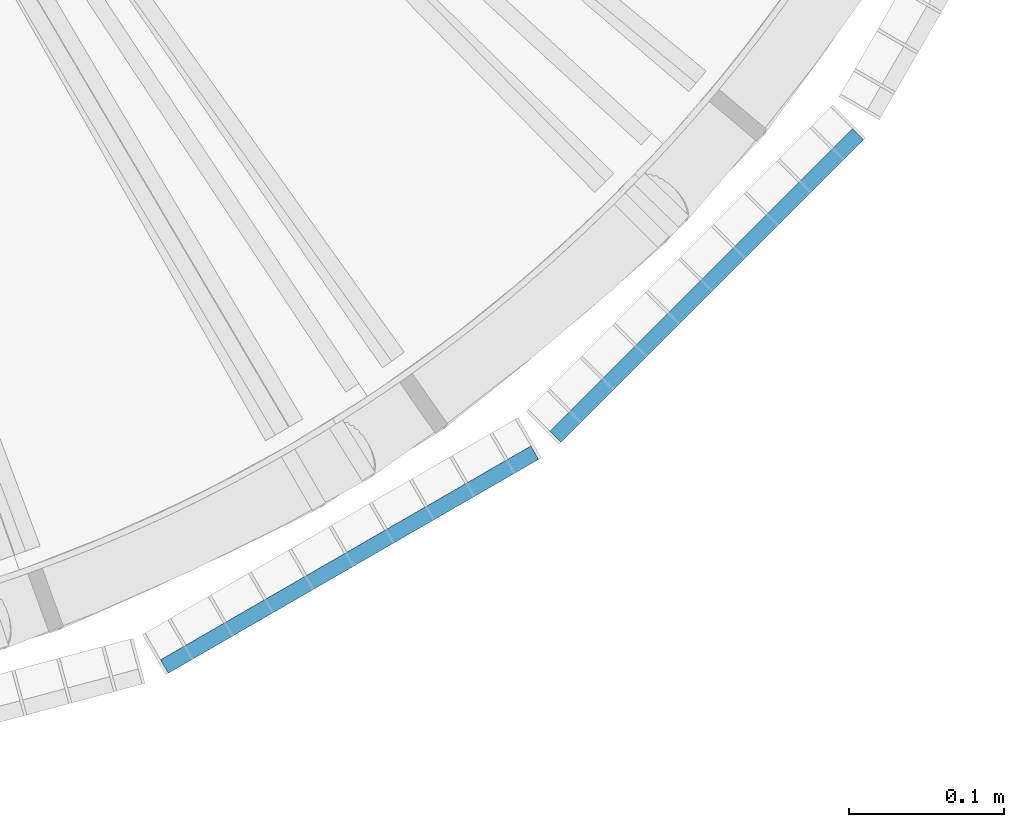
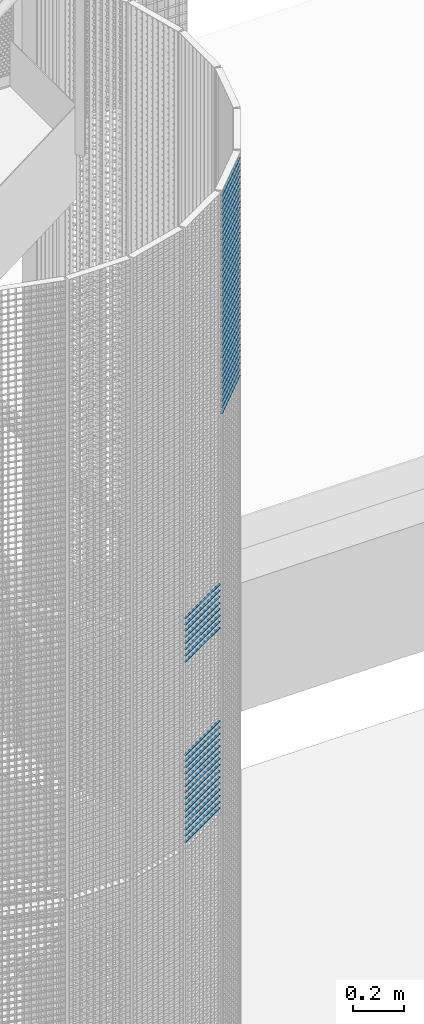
# One storey, part 395 of 1183: 59 beams, 2 elements without a shape of their own.
"""IFC2X3 building model written with IfcOpenShell, lengths in millimetres."""

from ifc_helpers import new_model, si_unit, frame, origin_with_axes, origin_2d_with_axis, place, context, subcontext, project, spatial, rectangle, extrude, material, type_object, element, aggregate, save


model = new_model("IFC2X3")

# Units and contexts
model_context = context("Model", 3, precision=1e-05, world=origin_with_axes())
body_context = subcontext(model_context, "Body", "Model", "MODEL_VIEW")
ifc_project = project(units=[si_unit("LENGTHUNIT", "METRE", prefix="MILLI"), si_unit("AREAUNIT", "SQUARE_METRE"), si_unit("VOLUMEUNIT", "CUBIC_METRE"), si_unit("MASSUNIT", "GRAM", prefix="KILO"), si_unit("TIMEUNIT", "SECOND"), si_unit("PLANEANGLEUNIT", "RADIAN"), si_unit("SOLIDANGLEUNIT", "STERADIAN"), si_unit("THERMODYNAMICTEMPERATUREUNIT", "DEGREE_CELSIUS"), si_unit("LUMINOUSINTENSITYUNIT", "LUMEN")], contexts=[model_context])

# Site, building, storey
site_placement = place(None, origin_with_axes())
site = spatial("IfcSite", under=ifc_project, at=site_placement, Name="Undefined", CompositionType="ELEMENT")
building_placement = place(site_placement, origin_with_axes())
building = spatial("IfcBuilding", under=site, at=building_placement, Name="Undefined", CompositionType="ELEMENT")
storey_placement = place(building_placement, origin_with_axes())
storey = spatial("IfcBuildingStorey", under=building, at=storey_placement, Name="Undefined", CompositionType="ELEMENT", Elevation=0.0)

# Assembly, beams
assembly_1_placement = place(storey_placement, origin_with_axes())
assembly_1 = element("IfcElementAssembly", 1, at=assembly_1_placement, inside=storey, Name="BORDURE", AssemblyPlace="NOTDEFINED", PredefinedType="NOTDEFINED")
ifc_material = material(Name="STEEL/S235JR")
beam_type = type_object("IfcBeamType", Name="PL2*10", PredefinedType="NOTDEFINED")
beam_1_placement = place(assembly_1_placement, frame((22276.2480445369, -895.30396491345, 15450.0), z_axis=(0.499999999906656, -0.866025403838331, 0.0), x_axis=(-0.866025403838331, -0.499999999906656, 0.0)))
beam_1 = element("IfcBeam", 2, at=beam_1_placement, type_object=beam_type, material=ifc_material, Name="ENTRETOISE", context=body_context, shape_type="SweptSolid", body=[
    extrude(rectangle(XDim=2.0, YDim=10.0, at=origin_2d_with_axis()), frame((275.999999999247, 9.09494701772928e-13, 1.53210777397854e-14), z_axis=(-1.0, 0.0, 0.0), x_axis=(0.0, -1.0, 0.0)), (0.0, 0.0, 1.0), 276.0),
])
beam_2_placement = place(assembly_1_placement, frame((22276.2480445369, -895.30396491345, 15420.0), z_axis=(0.499999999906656, -0.866025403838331, 0.0), x_axis=(-0.866025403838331, -0.499999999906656, 0.0)))
beam_2 = element("IfcBeam", 3, at=beam_2_placement, type_object=beam_type, material=ifc_material, Name="ENTRETOISE", context=body_context, shape_type="SweptSolid", body=[
    extrude(rectangle(XDim=2.0, YDim=10.0, at=origin_2d_with_axis()), frame((275.999999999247, 9.09494701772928e-13, 1.53210777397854e-14), z_axis=(-1.0, 0.0, 0.0), x_axis=(0.0, -1.0, 0.0)), (0.0, 0.0, 1.0), 276.0),
])
beam_3_placement = place(assembly_1_placement, frame((22276.2480445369, -895.303964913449, 15900.0), z_axis=(0.499999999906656, -0.866025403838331, 0.0), x_axis=(-0.866025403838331, -0.499999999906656, 0.0)))
beam_3 = element("IfcBeam", 4, at=beam_3_placement, type_object=beam_type, material=ifc_material, Name="ENTRETOISE", context=body_context, shape_type="SweptSolid", body=[
    extrude(rectangle(XDim=2.0, YDim=10.0, at=origin_2d_with_axis()), frame((275.999999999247, 9.09494701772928e-13, 1.53210777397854e-14), z_axis=(-1.0, 0.0, 0.0), x_axis=(0.0, -1.0, 0.0)), (0.0, 0.0, 1.0), 276.0),
])
beam_4_placement = place(assembly_1_placement, frame((22276.2480445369, -895.30396491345, 15390.0), z_axis=(0.499999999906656, -0.866025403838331, 0.0), x_axis=(-0.866025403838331, -0.499999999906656, 0.0)))
beam_4 = element("IfcBeam", 5, at=beam_4_placement, type_object=beam_type, material=ifc_material, Name="ENTRETOISE", context=body_context, shape_type="SweptSolid", body=[
    extrude(rectangle(XDim=2.0, YDim=10.0, at=origin_2d_with_axis()), frame((275.999999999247, 9.09494701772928e-13, 1.53210777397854e-14), z_axis=(-1.0, 0.0, 0.0), x_axis=(0.0, -1.0, 0.0)), (0.0, 0.0, 1.0), 276.0),
])
beam_5_placement = place(assembly_1_placement, frame((22276.2480445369, -895.303964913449, 15930.0), z_axis=(0.499999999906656, -0.866025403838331, 0.0), x_axis=(-0.866025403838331, -0.499999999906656, 0.0)))
beam_5 = element("IfcBeam", 6, at=beam_5_placement, type_object=beam_type, material=ifc_material, Name="ENTRETOISE", context=body_context, shape_type="SweptSolid", body=[
    extrude(rectangle(XDim=2.0, YDim=10.0, at=origin_2d_with_axis()), frame((275.999999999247, 9.09494701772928e-13, 1.53210777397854e-14), z_axis=(-1.0, 0.0, 0.0), x_axis=(0.0, -1.0, 0.0)), (0.0, 0.0, 1.0), 276.0),
])
beam_6_placement = place(assembly_1_placement, frame((22276.2480445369, -895.30396491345, 15360.0), z_axis=(0.499999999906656, -0.866025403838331, 0.0), x_axis=(-0.866025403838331, -0.499999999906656, 0.0)))
beam_6 = element("IfcBeam", 7, at=beam_6_placement, type_object=beam_type, material=ifc_material, Name="ENTRETOISE", context=body_context, shape_type="SweptSolid", body=[
    extrude(rectangle(XDim=2.0, YDim=10.0, at=origin_2d_with_axis()), frame((275.999999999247, 9.09494701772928e-13, 1.53210777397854e-14), z_axis=(-1.0, 0.0, 0.0), x_axis=(0.0, -1.0, 0.0)), (0.0, 0.0, 1.0), 276.0),
])
beam_7_placement = place(assembly_1_placement, frame((22276.2480445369, -895.30396491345, 15330.0), z_axis=(0.499999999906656, -0.866025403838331, 0.0), x_axis=(-0.866025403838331, -0.499999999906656, 0.0)))
beam_7 = element("IfcBeam", 8, at=beam_7_placement, type_object=beam_type, material=ifc_material, Name="ENTRETOISE", context=body_context, shape_type="SweptSolid", body=[
    extrude(rectangle(XDim=2.0, YDim=10.0, at=origin_2d_with_axis()), frame((275.999999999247, 9.09494701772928e-13, 1.53210777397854e-14), z_axis=(-1.0, 0.0, 0.0), x_axis=(0.0, -1.0, 0.0)), (0.0, 0.0, 1.0), 276.0),
])
beam_8_placement = place(assembly_1_placement, frame((22276.2480445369, -895.303964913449, 15960.0), z_axis=(0.499999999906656, -0.866025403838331, 0.0), x_axis=(-0.866025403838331, -0.499999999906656, 0.0)))
beam_8 = element("IfcBeam", 9, at=beam_8_placement, type_object=beam_type, material=ifc_material, Name="ENTRETOISE", context=body_context, shape_type="SweptSolid", body=[
    extrude(rectangle(XDim=2.0, YDim=10.0, at=origin_2d_with_axis()), frame((275.999999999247, 9.09494701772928e-13, 1.53210777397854e-14), z_axis=(-1.0, 0.0, 0.0), x_axis=(0.0, -1.0, 0.0)), (0.0, 0.0, 1.0), 276.0),
])
beam_9_placement = place(assembly_1_placement, frame((22276.2480445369, -895.30396491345, 15300.0), z_axis=(0.499999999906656, -0.866025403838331, 0.0), x_axis=(-0.866025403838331, -0.499999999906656, 0.0)))
beam_9 = element("IfcBeam", 10, at=beam_9_placement, type_object=beam_type, material=ifc_material, Name="ENTRETOISE", context=body_context, shape_type="SweptSolid", body=[
    extrude(rectangle(XDim=2.0, YDim=10.0, at=origin_2d_with_axis()), frame((275.999999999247, 9.09494701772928e-13, 1.53210777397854e-14), z_axis=(-1.0, 0.0, 0.0), x_axis=(0.0, -1.0, 0.0)), (0.0, 0.0, 1.0), 276.0),
])
beam_10_placement = place(assembly_1_placement, frame((22276.2480445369, -895.30396491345, 15270.0), z_axis=(0.499999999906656, -0.866025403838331, 0.0), x_axis=(-0.866025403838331, -0.499999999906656, 0.0)))
beam_10 = element("IfcBeam", 11, at=beam_10_placement, type_object=beam_type, material=ifc_material, Name="ENTRETOISE", context=body_context, shape_type="SweptSolid", body=[
    extrude(rectangle(XDim=2.0, YDim=10.0, at=origin_2d_with_axis()), frame((275.999999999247, 9.09494701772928e-13, 1.53210777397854e-14), z_axis=(-1.0, 0.0, 0.0), x_axis=(0.0, -1.0, 0.0)), (0.0, 0.0, 1.0), 276.0),
])
beam_11_placement = place(assembly_1_placement, frame((22276.2480445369, -895.303964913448, 15990.0), z_axis=(0.499999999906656, -0.866025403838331, 0.0), x_axis=(-0.866025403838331, -0.499999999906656, 0.0)))
beam_11 = element("IfcBeam", 12, at=beam_11_placement, type_object=beam_type, material=ifc_material, Name="ENTRETOISE", context=body_context, shape_type="SweptSolid", body=[
    extrude(rectangle(XDim=2.0, YDim=10.0, at=origin_2d_with_axis()), frame((275.999999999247, 9.09494701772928e-13, 1.53210777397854e-14), z_axis=(-1.0, 0.0, 0.0), x_axis=(0.0, -1.0, 0.0)), (0.0, 0.0, 1.0), 276.0),
])
beam_12_placement = place(assembly_1_placement, frame((22276.2480445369, -895.30396491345, 15240.0), z_axis=(0.499999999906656, -0.866025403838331, 0.0), x_axis=(-0.866025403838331, -0.499999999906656, 0.0)))
beam_12 = element("IfcBeam", 13, at=beam_12_placement, type_object=beam_type, material=ifc_material, Name="ENTRETOISE", context=body_context, shape_type="SweptSolid", body=[
    extrude(rectangle(XDim=2.0, YDim=10.0, at=origin_2d_with_axis()), frame((275.999999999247, 9.09494701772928e-13, 1.53210777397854e-14), z_axis=(-1.0, 0.0, 0.0), x_axis=(0.0, -1.0, 0.0)), (0.0, 0.0, 1.0), 276.0),
])
beam_13_placement = place(assembly_1_placement, frame((22276.2480445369, -895.303964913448, 16020.0), z_axis=(0.499999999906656, -0.866025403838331, 0.0), x_axis=(-0.866025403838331, -0.499999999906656, 0.0)))
beam_13 = element("IfcBeam", 14, at=beam_13_placement, type_object=beam_type, material=ifc_material, Name="ENTRETOISE", context=body_context, shape_type="SweptSolid", body=[
    extrude(rectangle(XDim=2.0, YDim=10.0, at=origin_2d_with_axis()), frame((275.999999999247, 9.09494701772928e-13, 1.53210777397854e-14), z_axis=(-1.0, 0.0, 0.0), x_axis=(0.0, -1.0, 0.0)), (0.0, 0.0, 1.0), 276.0),
])
beam_14_placement = place(assembly_1_placement, frame((22276.2480445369, -895.30396491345, 15210.0), z_axis=(0.499999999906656, -0.866025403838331, 0.0), x_axis=(-0.866025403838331, -0.499999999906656, 0.0)))
beam_14 = element("IfcBeam", 15, at=beam_14_placement, type_object=beam_type, material=ifc_material, Name="ENTRETOISE", context=body_context, shape_type="SweptSolid", body=[
    extrude(rectangle(XDim=2.0, YDim=10.0, at=origin_2d_with_axis()), frame((275.999999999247, 9.09494701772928e-13, 1.53210777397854e-14), z_axis=(-1.0, 0.0, 0.0), x_axis=(0.0, -1.0, 0.0)), (0.0, 0.0, 1.0), 276.0),
])
beam_15_placement = place(assembly_1_placement, frame((22276.2480445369, -895.30396491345, 15180.0), z_axis=(0.499999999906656, -0.866025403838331, 0.0), x_axis=(-0.866025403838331, -0.499999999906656, 0.0)))
beam_15 = element("IfcBeam", 16, at=beam_15_placement, type_object=beam_type, material=ifc_material, Name="ENTRETOISE", context=body_context, shape_type="SweptSolid", body=[
    extrude(rectangle(XDim=2.0, YDim=10.0, at=origin_2d_with_axis()), frame((275.999999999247, 9.09494701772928e-13, 1.53210777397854e-14), z_axis=(-1.0, 0.0, 0.0), x_axis=(0.0, -1.0, 0.0)), (0.0, 0.0, 1.0), 276.0),
])
beam_16_placement = place(assembly_1_placement, frame((22276.2480445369, -895.303964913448, 16050.0), z_axis=(0.499999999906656, -0.866025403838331, 0.0), x_axis=(-0.866025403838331, -0.499999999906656, 0.0)))
beam_16 = element("IfcBeam", 17, at=beam_16_placement, type_object=beam_type, material=ifc_material, Name="ENTRETOISE", context=body_context, shape_type="SweptSolid", body=[
    extrude(rectangle(XDim=2.0, YDim=10.0, at=origin_2d_with_axis()), frame((275.999999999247, 9.09494701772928e-13, 1.53210777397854e-14), z_axis=(-1.0, 0.0, 0.0), x_axis=(0.0, -1.0, 0.0)), (0.0, 0.0, 1.0), 276.0),
])
beam_17_placement = place(assembly_1_placement, frame((22276.2480445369, -895.30396491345, 15150.0), z_axis=(0.499999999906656, -0.866025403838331, 0.0), x_axis=(-0.866025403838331, -0.499999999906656, 0.0)))
beam_17 = element("IfcBeam", 18, at=beam_17_placement, type_object=beam_type, material=ifc_material, Name="ENTRETOISE", context=body_context, shape_type="SweptSolid", body=[
    extrude(rectangle(XDim=2.0, YDim=10.0, at=origin_2d_with_axis()), frame((275.999999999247, 9.09494701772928e-13, 1.53210777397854e-14), z_axis=(-1.0, 0.0, 0.0), x_axis=(0.0, -1.0, 0.0)), (0.0, 0.0, 1.0), 276.0),
])
beam_18_placement = place(assembly_1_placement, frame((22276.2480445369, -895.30396491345, 15120.0), z_axis=(0.499999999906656, -0.866025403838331, 0.0), x_axis=(-0.866025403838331, -0.499999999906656, 0.0)))
beam_18 = element("IfcBeam", 19, at=beam_18_placement, type_object=beam_type, material=ifc_material, Name="ENTRETOISE", context=body_context, shape_type="SweptSolid", body=[
    extrude(rectangle(XDim=2.0, YDim=10.0, at=origin_2d_with_axis()), frame((275.999999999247, 9.09494701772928e-13, 1.53210777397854e-14), z_axis=(-1.0, 0.0, 0.0), x_axis=(0.0, -1.0, 0.0)), (0.0, 0.0, 1.0), 276.0),
])
beam_19_placement = place(assembly_1_placement, frame((22276.2480445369, -895.303964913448, 16080.0), z_axis=(0.499999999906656, -0.866025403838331, 0.0), x_axis=(-0.866025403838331, -0.499999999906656, 0.0)))
beam_19 = element("IfcBeam", 20, at=beam_19_placement, type_object=beam_type, material=ifc_material, Name="ENTRETOISE", context=body_context, shape_type="SweptSolid", body=[
    extrude(rectangle(XDim=2.0, YDim=10.0, at=origin_2d_with_axis()), frame((275.999999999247, 9.09494701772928e-13, 1.53210777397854e-14), z_axis=(-1.0, 0.0, 0.0), x_axis=(0.0, -1.0, 0.0)), (0.0, 0.0, 1.0), 276.0),
])
beam_20_placement = place(assembly_1_placement, frame((22276.2480445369, -895.30396491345, 15090.0), z_axis=(0.499999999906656, -0.866025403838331, 0.0), x_axis=(-0.866025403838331, -0.499999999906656, 0.0)))
beam_20 = element("IfcBeam", 21, at=beam_20_placement, type_object=beam_type, material=ifc_material, Name="ENTRETOISE", context=body_context, shape_type="SweptSolid", body=[
    extrude(rectangle(XDim=2.0, YDim=10.0, at=origin_2d_with_axis()), frame((275.999999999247, 9.09494701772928e-13, 1.53210777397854e-14), z_axis=(-1.0, 0.0, 0.0), x_axis=(0.0, -1.0, 0.0)), (0.0, 0.0, 1.0), 276.0),
])
beam_21_placement = place(assembly_1_placement, frame((22276.2480445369, -895.30396491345, 15060.0), z_axis=(0.499999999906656, -0.866025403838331, 0.0), x_axis=(-0.866025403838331, -0.499999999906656, 0.0)))
beam_21 = element("IfcBeam", 22, at=beam_21_placement, type_object=beam_type, material=ifc_material, Name="ENTRETOISE", context=body_context, shape_type="SweptSolid", body=[
    extrude(rectangle(XDim=2.0, YDim=10.0, at=origin_2d_with_axis()), frame((275.999999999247, 9.09494701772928e-13, 1.53210777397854e-14), z_axis=(-1.0, 0.0, 0.0), x_axis=(0.0, -1.0, 0.0)), (0.0, 0.0, 1.0), 276.0),
])
beam_22_placement = place(assembly_1_placement, frame((22276.2480445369, -895.303964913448, 16110.0), z_axis=(0.499999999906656, -0.866025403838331, 0.0), x_axis=(-0.866025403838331, -0.499999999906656, 0.0)))
beam_22 = element("IfcBeam", 23, at=beam_22_placement, type_object=beam_type, material=ifc_material, Name="ENTRETOISE", context=body_context, shape_type="SweptSolid", body=[
    extrude(rectangle(XDim=2.0, YDim=10.0, at=origin_2d_with_axis()), frame((275.999999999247, 9.09494701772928e-13, 1.53210777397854e-14), z_axis=(-1.0, 0.0, 0.0), x_axis=(0.0, -1.0, 0.0)), (0.0, 0.0, 1.0), 276.0),
])
beam_23_placement = place(assembly_1_placement, frame((22276.2480445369, -895.30396491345, 15030.0), z_axis=(0.499999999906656, -0.866025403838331, 0.0), x_axis=(-0.866025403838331, -0.499999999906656, 0.0)))
beam_23 = element("IfcBeam", 24, at=beam_23_placement, type_object=beam_type, material=ifc_material, Name="ENTRETOISE", context=body_context, shape_type="SweptSolid", body=[
    extrude(rectangle(XDim=2.0, YDim=10.0, at=origin_2d_with_axis()), frame((275.999999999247, 9.09494701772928e-13, 1.53210777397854e-14), z_axis=(-1.0, 0.0, 0.0), x_axis=(0.0, -1.0, 0.0)), (0.0, 0.0, 1.0), 276.0),
])
aggregate(assembly_1, [beam_1, beam_2, beam_3, beam_4, beam_5, beam_6, beam_7, beam_8, beam_9, beam_10, beam_11, beam_12, beam_13, beam_14, beam_15, beam_16, beam_17, beam_18, beam_19, beam_20, beam_21, beam_22, beam_23])

assembly_2_placement = place(storey_placement, origin_with_axes())
assembly_2 = element("IfcElementAssembly", 25, at=assembly_2_placement, inside=storey, Name="BORDURE", AssemblyPlace="NOTDEFINED", PredefinedType="NOTDEFINED")
beam_24_placement = place(assembly_2_placement, frame((22484.9271684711, -689.771348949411, 17970.0), z_axis=(0.707106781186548, -0.707106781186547, 0.0), x_axis=(-0.70710678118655, -0.707106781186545, 0.0)))
beam_24 = element("IfcBeam", 26, at=beam_24_placement, type_object=beam_type, material=ifc_material, Name="ENTRETOISE", context=body_context, shape_type="SweptSolid", body=[
    extrude(rectangle(XDim=2.0, YDim=10.0, at=origin_2d_with_axis()), frame((275.999999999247, 9.09494701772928e-13, 1.53210777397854e-14), z_axis=(-1.0, 0.0, 0.0), x_axis=(0.0, -1.0, 0.0)), (0.0, 0.0, 1.0), 276.0),
])
beam_25_placement = place(assembly_2_placement, frame((22484.9271684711, -689.771348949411, 17940.0), z_axis=(0.707106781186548, -0.707106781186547, 0.0), x_axis=(-0.70710678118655, -0.707106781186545, 0.0)))
beam_25 = element("IfcBeam", 27, at=beam_25_placement, type_object=beam_type, material=ifc_material, Name="ENTRETOISE", context=body_context, shape_type="SweptSolid", body=[
    extrude(rectangle(XDim=2.0, YDim=10.0, at=origin_2d_with_axis()), frame((275.999999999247, 9.09494701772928e-13, 1.53210777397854e-14), z_axis=(-1.0, 0.0, 0.0), x_axis=(0.0, -1.0, 0.0)), (0.0, 0.0, 1.0), 276.0),
])
beam_26_placement = place(assembly_2_placement, frame((22484.9271684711, -689.771348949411, 17910.0), z_axis=(0.707106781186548, -0.707106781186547, 0.0), x_axis=(-0.70710678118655, -0.707106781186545, 0.0)))
beam_26 = element("IfcBeam", 28, at=beam_26_placement, type_object=beam_type, material=ifc_material, Name="ENTRETOISE", context=body_context, shape_type="SweptSolid", body=[
    extrude(rectangle(XDim=2.0, YDim=10.0, at=origin_2d_with_axis()), frame((275.999999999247, 9.09494701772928e-13, 1.53210777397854e-14), z_axis=(-1.0, 0.0, 0.0), x_axis=(0.0, -1.0, 0.0)), (0.0, 0.0, 1.0), 276.0),
])
beam_27_placement = place(assembly_2_placement, frame((22484.9271684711, -689.771348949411, 17880.0), z_axis=(0.707106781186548, -0.707106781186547, 0.0), x_axis=(-0.70710678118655, -0.707106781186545, 0.0)))
beam_27 = element("IfcBeam", 29, at=beam_27_placement, type_object=beam_type, material=ifc_material, Name="ENTRETOISE", context=body_context, shape_type="SweptSolid", body=[
    extrude(rectangle(XDim=2.0, YDim=10.0, at=origin_2d_with_axis()), frame((275.999999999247, 9.09494701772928e-13, 1.53210777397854e-14), z_axis=(-1.0, 0.0, 0.0), x_axis=(0.0, -1.0, 0.0)), (0.0, 0.0, 1.0), 276.0),
])
beam_28_placement = place(assembly_2_placement, frame((22484.9271684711, -689.771348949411, 17850.0), z_axis=(0.707106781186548, -0.707106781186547, 0.0), x_axis=(-0.70710678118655, -0.707106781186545, 0.0)))
beam_28 = element("IfcBeam", 30, at=beam_28_placement, type_object=beam_type, material=ifc_material, Name="ENTRETOISE", context=body_context, shape_type="SweptSolid", body=[
    extrude(rectangle(XDim=2.0, YDim=10.0, at=origin_2d_with_axis()), frame((275.999999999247, 9.09494701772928e-13, 1.53210777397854e-14), z_axis=(-1.0, 0.0, 0.0), x_axis=(0.0, -1.0, 0.0)), (0.0, 0.0, 1.0), 276.0),
])
beam_29_placement = place(assembly_2_placement, frame((22484.9271684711, -689.771348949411, 17820.0), z_axis=(0.707106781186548, -0.707106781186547, 0.0), x_axis=(-0.70710678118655, -0.707106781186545, 0.0)))
beam_29 = element("IfcBeam", 31, at=beam_29_placement, type_object=beam_type, material=ifc_material, Name="ENTRETOISE", context=body_context, shape_type="SweptSolid", body=[
    extrude(rectangle(XDim=2.0, YDim=10.0, at=origin_2d_with_axis()), frame((275.999999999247, 9.09494701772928e-13, 1.53210777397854e-14), z_axis=(-1.0, 0.0, 0.0), x_axis=(0.0, -1.0, 0.0)), (0.0, 0.0, 1.0), 276.0),
])
beam_30_placement = place(assembly_2_placement, frame((22484.9271684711, -689.771348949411, 17790.0), z_axis=(0.707106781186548, -0.707106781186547, 0.0), x_axis=(-0.70710678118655, -0.707106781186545, 0.0)))
beam_30 = element("IfcBeam", 32, at=beam_30_placement, type_object=beam_type, material=ifc_material, Name="ENTRETOISE", context=body_context, shape_type="SweptSolid", body=[
    extrude(rectangle(XDim=2.0, YDim=10.0, at=origin_2d_with_axis()), frame((275.999999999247, 9.09494701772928e-13, 1.53210777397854e-14), z_axis=(-1.0, 0.0, 0.0), x_axis=(0.0, -1.0, 0.0)), (0.0, 0.0, 1.0), 276.0),
])
beam_31_placement = place(assembly_2_placement, frame((22484.9271684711, -689.771348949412, 17760.0), z_axis=(0.707106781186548, -0.707106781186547, 0.0), x_axis=(-0.70710678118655, -0.707106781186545, 0.0)))
beam_31 = element("IfcBeam", 33, at=beam_31_placement, type_object=beam_type, material=ifc_material, Name="ENTRETOISE", context=body_context, shape_type="SweptSolid", body=[
    extrude(rectangle(XDim=2.0, YDim=10.0, at=origin_2d_with_axis()), frame((275.999999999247, 9.09494701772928e-13, 1.53210777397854e-14), z_axis=(-1.0, 0.0, 0.0), x_axis=(0.0, -1.0, 0.0)), (0.0, 0.0, 1.0), 276.0),
])
beam_32_placement = place(assembly_2_placement, frame((22484.9271684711, -689.771348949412, 17730.0), z_axis=(0.707106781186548, -0.707106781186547, 0.0), x_axis=(-0.70710678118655, -0.707106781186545, 0.0)))
beam_32 = element("IfcBeam", 34, at=beam_32_placement, type_object=beam_type, material=ifc_material, Name="ENTRETOISE", context=body_context, shape_type="SweptSolid", body=[
    extrude(rectangle(XDim=2.0, YDim=10.0, at=origin_2d_with_axis()), frame((275.999999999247, 9.09494701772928e-13, 1.53210777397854e-14), z_axis=(-1.0, 0.0, 0.0), x_axis=(0.0, -1.0, 0.0)), (0.0, 0.0, 1.0), 276.0),
])
beam_33_placement = place(assembly_2_placement, frame((22484.9271684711, -689.771348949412, 17700.0), z_axis=(0.707106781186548, -0.707106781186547, 0.0), x_axis=(-0.70710678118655, -0.707106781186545, 0.0)))
beam_33 = element("IfcBeam", 35, at=beam_33_placement, type_object=beam_type, material=ifc_material, Name="ENTRETOISE", context=body_context, shape_type="SweptSolid", body=[
    extrude(rectangle(XDim=2.0, YDim=10.0, at=origin_2d_with_axis()), frame((275.999999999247, 9.09494701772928e-13, 1.53210777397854e-14), z_axis=(-1.0, 0.0, 0.0), x_axis=(0.0, -1.0, 0.0)), (0.0, 0.0, 1.0), 276.0),
])
beam_34_placement = place(assembly_2_placement, frame((22484.9271684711, -689.771348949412, 17670.0), z_axis=(0.707106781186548, -0.707106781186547, 0.0), x_axis=(-0.70710678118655, -0.707106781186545, 0.0)))
beam_34 = element("IfcBeam", 36, at=beam_34_placement, type_object=beam_type, material=ifc_material, Name="ENTRETOISE", context=body_context, shape_type="SweptSolid", body=[
    extrude(rectangle(XDim=2.0, YDim=10.0, at=origin_2d_with_axis()), frame((275.999999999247, 9.09494701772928e-13, 1.53210777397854e-14), z_axis=(-1.0, 0.0, 0.0), x_axis=(0.0, -1.0, 0.0)), (0.0, 0.0, 1.0), 276.0),
])
beam_35_placement = place(assembly_2_placement, frame((22484.9271684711, -689.771348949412, 17640.0), z_axis=(0.707106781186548, -0.707106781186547, 0.0), x_axis=(-0.70710678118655, -0.707106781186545, 0.0)))
beam_35 = element("IfcBeam", 37, at=beam_35_placement, type_object=beam_type, material=ifc_material, Name="ENTRETOISE", context=body_context, shape_type="SweptSolid", body=[
    extrude(rectangle(XDim=2.0, YDim=10.0, at=origin_2d_with_axis()), frame((275.999999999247, 9.09494701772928e-13, 1.53210777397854e-14), z_axis=(-1.0, 0.0, 0.0), x_axis=(0.0, -1.0, 0.0)), (0.0, 0.0, 1.0), 276.0),
])
beam_36_placement = place(assembly_2_placement, frame((22484.9271684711, -689.771348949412, 17610.0), z_axis=(0.707106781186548, -0.707106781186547, 0.0), x_axis=(-0.70710678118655, -0.707106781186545, 0.0)))
beam_36 = element("IfcBeam", 38, at=beam_36_placement, type_object=beam_type, material=ifc_material, Name="ENTRETOISE", context=body_context, shape_type="SweptSolid", body=[
    extrude(rectangle(XDim=2.0, YDim=10.0, at=origin_2d_with_axis()), frame((275.999999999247, 9.09494701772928e-13, 1.53210777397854e-14), z_axis=(-1.0, 0.0, 0.0), x_axis=(0.0, -1.0, 0.0)), (0.0, 0.0, 1.0), 276.0),
])
beam_37_placement = place(assembly_2_placement, frame((22484.9271684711, -689.771348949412, 17580.0), z_axis=(0.707106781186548, -0.707106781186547, 0.0), x_axis=(-0.70710678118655, -0.707106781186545, 0.0)))
beam_37 = element("IfcBeam", 39, at=beam_37_placement, type_object=beam_type, material=ifc_material, Name="ENTRETOISE", context=body_context, shape_type="SweptSolid", body=[
    extrude(rectangle(XDim=2.0, YDim=10.0, at=origin_2d_with_axis()), frame((275.999999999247, 9.09494701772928e-13, 1.53210777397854e-14), z_axis=(-1.0, 0.0, 0.0), x_axis=(0.0, -1.0, 0.0)), (0.0, 0.0, 1.0), 276.0),
])
beam_38_placement = place(assembly_2_placement, frame((22484.9271684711, -689.771348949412, 17550.0), z_axis=(0.707106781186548, -0.707106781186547, 0.0), x_axis=(-0.70710678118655, -0.707106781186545, 0.0)))
beam_38 = element("IfcBeam", 40, at=beam_38_placement, type_object=beam_type, material=ifc_material, Name="ENTRETOISE", context=body_context, shape_type="SweptSolid", body=[
    extrude(rectangle(XDim=2.0, YDim=10.0, at=origin_2d_with_axis()), frame((275.999999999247, 9.09494701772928e-13, 1.53210777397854e-14), z_axis=(-1.0, 0.0, 0.0), x_axis=(0.0, -1.0, 0.0)), (0.0, 0.0, 1.0), 276.0),
])
beam_39_placement = place(assembly_2_placement, frame((22484.9271684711, -689.771348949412, 17520.0), z_axis=(0.707106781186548, -0.707106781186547, 0.0), x_axis=(-0.70710678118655, -0.707106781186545, 0.0)))
beam_39 = element("IfcBeam", 41, at=beam_39_placement, type_object=beam_type, material=ifc_material, Name="ENTRETOISE", context=body_context, shape_type="SweptSolid", body=[
    extrude(rectangle(XDim=2.0, YDim=10.0, at=origin_2d_with_axis()), frame((275.999999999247, 9.09494701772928e-13, 1.53210777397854e-14), z_axis=(-1.0, 0.0, 0.0), x_axis=(0.0, -1.0, 0.0)), (0.0, 0.0, 1.0), 276.0),
])
beam_40_placement = place(assembly_2_placement, frame((22484.9271684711, -689.771348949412, 17490.0), z_axis=(0.707106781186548, -0.707106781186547, 0.0), x_axis=(-0.70710678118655, -0.707106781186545, 0.0)))
beam_40 = element("IfcBeam", 42, at=beam_40_placement, type_object=beam_type, material=ifc_material, Name="ENTRETOISE", context=body_context, shape_type="SweptSolid", body=[
    extrude(rectangle(XDim=2.0, YDim=10.0, at=origin_2d_with_axis()), frame((275.999999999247, 9.09494701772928e-13, 1.53210777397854e-14), z_axis=(-1.0, 0.0, 0.0), x_axis=(0.0, -1.0, 0.0)), (0.0, 0.0, 1.0), 276.0),
])
beam_41_placement = place(assembly_2_placement, frame((22484.9271684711, -689.771348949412, 17460.0), z_axis=(0.707106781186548, -0.707106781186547, 0.0), x_axis=(-0.70710678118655, -0.707106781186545, 0.0)))
beam_41 = element("IfcBeam", 43, at=beam_41_placement, type_object=beam_type, material=ifc_material, Name="ENTRETOISE", context=body_context, shape_type="SweptSolid", body=[
    extrude(rectangle(XDim=2.0, YDim=10.0, at=origin_2d_with_axis()), frame((275.999999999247, 9.09494701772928e-13, 1.53210777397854e-14), z_axis=(-1.0, 0.0, 0.0), x_axis=(0.0, -1.0, 0.0)), (0.0, 0.0, 1.0), 276.0),
])
beam_42_placement = place(assembly_2_placement, frame((22484.9271684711, -689.771348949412, 17430.0), z_axis=(0.707106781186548, -0.707106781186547, 0.0), x_axis=(-0.70710678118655, -0.707106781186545, 0.0)))
beam_42 = element("IfcBeam", 44, at=beam_42_placement, type_object=beam_type, material=ifc_material, Name="ENTRETOISE", context=body_context, shape_type="SweptSolid", body=[
    extrude(rectangle(XDim=2.0, YDim=10.0, at=origin_2d_with_axis()), frame((275.999999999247, 9.09494701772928e-13, 1.53210777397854e-14), z_axis=(-1.0, 0.0, 0.0), x_axis=(0.0, -1.0, 0.0)), (0.0, 0.0, 1.0), 276.0),
])
beam_43_placement = place(assembly_2_placement, frame((22484.9271684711, -689.771348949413, 17400.0), z_axis=(0.707106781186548, -0.707106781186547, 0.0), x_axis=(-0.70710678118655, -0.707106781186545, 0.0)))
beam_43 = element("IfcBeam", 45, at=beam_43_placement, type_object=beam_type, material=ifc_material, Name="ENTRETOISE", context=body_context, shape_type="SweptSolid", body=[
    extrude(rectangle(XDim=2.0, YDim=10.0, at=origin_2d_with_axis()), frame((275.999999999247, 9.09494701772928e-13, 1.53210777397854e-14), z_axis=(-1.0, 0.0, 0.0), x_axis=(0.0, -1.0, 0.0)), (0.0, 0.0, 1.0), 276.0),
])
beam_44_placement = place(assembly_2_placement, frame((22484.9271684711, -689.771348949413, 17370.0), z_axis=(0.707106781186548, -0.707106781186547, 0.0), x_axis=(-0.70710678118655, -0.707106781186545, 0.0)))
beam_44 = element("IfcBeam", 46, at=beam_44_placement, type_object=beam_type, material=ifc_material, Name="ENTRETOISE", context=body_context, shape_type="SweptSolid", body=[
    extrude(rectangle(XDim=2.0, YDim=10.0, at=origin_2d_with_axis()), frame((275.999999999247, 9.09494701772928e-13, 1.53210777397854e-14), z_axis=(-1.0, 0.0, 0.0), x_axis=(0.0, -1.0, 0.0)), (0.0, 0.0, 1.0), 276.0),
])
beam_45_placement = place(assembly_2_placement, frame((22484.9271684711, -689.771348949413, 17340.0), z_axis=(0.707106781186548, -0.707106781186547, 0.0), x_axis=(-0.70710678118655, -0.707106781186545, 0.0)))
beam_45 = element("IfcBeam", 47, at=beam_45_placement, type_object=beam_type, material=ifc_material, Name="ENTRETOISE", context=body_context, shape_type="SweptSolid", body=[
    extrude(rectangle(XDim=2.0, YDim=10.0, at=origin_2d_with_axis()), frame((275.999999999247, 9.09494701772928e-13, 1.53210777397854e-14), z_axis=(-1.0, 0.0, 0.0), x_axis=(0.0, -1.0, 0.0)), (0.0, 0.0, 1.0), 276.0),
])
beam_46_placement = place(assembly_2_placement, frame((22484.9271684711, -689.771348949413, 17310.0), z_axis=(0.707106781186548, -0.707106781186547, 0.0), x_axis=(-0.70710678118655, -0.707106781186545, 0.0)))
beam_46 = element("IfcBeam", 48, at=beam_46_placement, type_object=beam_type, material=ifc_material, Name="ENTRETOISE", context=body_context, shape_type="SweptSolid", body=[
    extrude(rectangle(XDim=2.0, YDim=10.0, at=origin_2d_with_axis()), frame((275.999999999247, 9.09494701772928e-13, 1.53210777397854e-14), z_axis=(-1.0, 0.0, 0.0), x_axis=(0.0, -1.0, 0.0)), (0.0, 0.0, 1.0), 276.0),
])
beam_47_placement = place(assembly_2_placement, frame((22484.9271684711, -689.771348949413, 17280.0), z_axis=(0.707106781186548, -0.707106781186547, 0.0), x_axis=(-0.70710678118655, -0.707106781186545, 0.0)))
beam_47 = element("IfcBeam", 49, at=beam_47_placement, type_object=beam_type, material=ifc_material, Name="ENTRETOISE", context=body_context, shape_type="SweptSolid", body=[
    extrude(rectangle(XDim=2.0, YDim=10.0, at=origin_2d_with_axis()), frame((275.999999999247, 9.09494701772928e-13, 1.53210777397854e-14), z_axis=(-1.0, 0.0, 0.0), x_axis=(0.0, -1.0, 0.0)), (0.0, 0.0, 1.0), 276.0),
])
beam_48_placement = place(assembly_2_placement, frame((22484.9271684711, -689.771348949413, 17250.0), z_axis=(0.707106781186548, -0.707106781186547, 0.0), x_axis=(-0.70710678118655, -0.707106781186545, 0.0)))
beam_48 = element("IfcBeam", 50, at=beam_48_placement, type_object=beam_type, material=ifc_material, Name="ENTRETOISE", context=body_context, shape_type="SweptSolid", body=[
    extrude(rectangle(XDim=2.0, YDim=10.0, at=origin_2d_with_axis()), frame((275.999999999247, 9.09494701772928e-13, 1.53210777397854e-14), z_axis=(-1.0, 0.0, 0.0), x_axis=(0.0, -1.0, 0.0)), (0.0, 0.0, 1.0), 276.0),
])
beam_49_placement = place(assembly_2_placement, frame((22484.9271684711, -689.771348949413, 17220.0), z_axis=(0.707106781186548, -0.707106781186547, 0.0), x_axis=(-0.70710678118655, -0.707106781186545, 0.0)))
beam_49 = element("IfcBeam", 51, at=beam_49_placement, type_object=beam_type, material=ifc_material, Name="ENTRETOISE", context=body_context, shape_type="SweptSolid", body=[
    extrude(rectangle(XDim=2.0, YDim=10.0, at=origin_2d_with_axis()), frame((275.999999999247, 9.09494701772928e-13, 1.53210777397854e-14), z_axis=(-1.0, 0.0, 0.0), x_axis=(0.0, -1.0, 0.0)), (0.0, 0.0, 1.0), 276.0),
])
beam_50_placement = place(assembly_2_placement, frame((22484.9271684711, -689.771348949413, 17190.0), z_axis=(0.707106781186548, -0.707106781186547, 0.0), x_axis=(-0.70710678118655, -0.707106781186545, 0.0)))
beam_50 = element("IfcBeam", 52, at=beam_50_placement, type_object=beam_type, material=ifc_material, Name="ENTRETOISE", context=body_context, shape_type="SweptSolid", body=[
    extrude(rectangle(XDim=2.0, YDim=10.0, at=origin_2d_with_axis()), frame((275.999999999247, 9.09494701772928e-13, 1.53210777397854e-14), z_axis=(-1.0, 0.0, 0.0), x_axis=(0.0, -1.0, 0.0)), (0.0, 0.0, 1.0), 276.0),
])
beam_51_placement = place(assembly_2_placement, frame((22484.9271684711, -689.771348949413, 17160.0), z_axis=(0.707106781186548, -0.707106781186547, 0.0), x_axis=(-0.70710678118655, -0.707106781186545, 0.0)))
beam_51 = element("IfcBeam", 53, at=beam_51_placement, type_object=beam_type, material=ifc_material, Name="ENTRETOISE", context=body_context, shape_type="SweptSolid", body=[
    extrude(rectangle(XDim=2.0, YDim=10.0, at=origin_2d_with_axis()), frame((275.999999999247, 9.09494701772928e-13, 1.53210777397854e-14), z_axis=(-1.0, 0.0, 0.0), x_axis=(0.0, -1.0, 0.0)), (0.0, 0.0, 1.0), 276.0),
])
beam_52_placement = place(assembly_2_placement, frame((22484.9271684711, -689.771348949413, 17130.0), z_axis=(0.707106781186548, -0.707106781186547, 0.0), x_axis=(-0.70710678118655, -0.707106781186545, 0.0)))
beam_52 = element("IfcBeam", 54, at=beam_52_placement, type_object=beam_type, material=ifc_material, Name="ENTRETOISE", context=body_context, shape_type="SweptSolid", body=[
    extrude(rectangle(XDim=2.0, YDim=10.0, at=origin_2d_with_axis()), frame((275.999999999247, 9.09494701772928e-13, 1.53210777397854e-14), z_axis=(-1.0, 0.0, 0.0), x_axis=(0.0, -1.0, 0.0)), (0.0, 0.0, 1.0), 276.0),
])
beam_53_placement = place(assembly_2_placement, frame((22484.9271684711, -689.771348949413, 17100.0), z_axis=(0.707106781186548, -0.707106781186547, 0.0), x_axis=(-0.70710678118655, -0.707106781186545, 0.0)))
beam_53 = element("IfcBeam", 55, at=beam_53_placement, type_object=beam_type, material=ifc_material, Name="ENTRETOISE", context=body_context, shape_type="SweptSolid", body=[
    extrude(rectangle(XDim=2.0, YDim=10.0, at=origin_2d_with_axis()), frame((275.999999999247, 9.09494701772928e-13, 1.53210777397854e-14), z_axis=(-1.0, 0.0, 0.0), x_axis=(0.0, -1.0, 0.0)), (0.0, 0.0, 1.0), 276.0),
])
beam_54_placement = place(assembly_2_placement, frame((22484.9271684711, -689.771348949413, 17070.0), z_axis=(0.707106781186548, -0.707106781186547, 0.0), x_axis=(-0.70710678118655, -0.707106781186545, 0.0)))
beam_54 = element("IfcBeam", 56, at=beam_54_placement, type_object=beam_type, material=ifc_material, Name="ENTRETOISE", context=body_context, shape_type="SweptSolid", body=[
    extrude(rectangle(XDim=2.0, YDim=10.0, at=origin_2d_with_axis()), frame((275.999999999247, 9.09494701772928e-13, 1.53210777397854e-14), z_axis=(-1.0, 0.0, 0.0), x_axis=(0.0, -1.0, 0.0)), (0.0, 0.0, 1.0), 276.0),
])
beam_55_placement = place(assembly_2_placement, frame((22484.9271684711, -689.771348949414, 17040.0), z_axis=(0.707106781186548, -0.707106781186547, 0.0), x_axis=(-0.70710678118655, -0.707106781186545, 0.0)))
beam_55 = element("IfcBeam", 57, at=beam_55_placement, type_object=beam_type, material=ifc_material, Name="ENTRETOISE", context=body_context, shape_type="SweptSolid", body=[
    extrude(rectangle(XDim=2.0, YDim=10.0, at=origin_2d_with_axis()), frame((275.999999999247, 9.09494701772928e-13, 1.53210777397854e-14), z_axis=(-1.0, 0.0, 0.0), x_axis=(0.0, -1.0, 0.0)), (0.0, 0.0, 1.0), 276.0),
])
beam_56_placement = place(assembly_2_placement, frame((22484.9271684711, -689.771348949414, 17010.0), z_axis=(0.707106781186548, -0.707106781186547, 0.0), x_axis=(-0.70710678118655, -0.707106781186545, 0.0)))
beam_56 = element("IfcBeam", 58, at=beam_56_placement, type_object=beam_type, material=ifc_material, Name="ENTRETOISE", context=body_context, shape_type="SweptSolid", body=[
    extrude(rectangle(XDim=2.0, YDim=10.0, at=origin_2d_with_axis()), frame((275.999999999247, 9.09494701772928e-13, 1.53210777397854e-14), z_axis=(-1.0, 0.0, 0.0), x_axis=(0.0, -1.0, 0.0)), (0.0, 0.0, 1.0), 276.0),
])
beam_57_placement = place(assembly_2_placement, frame((22484.9271684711, -689.771348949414, 16980.0), z_axis=(0.707106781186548, -0.707106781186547, 0.0), x_axis=(-0.70710678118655, -0.707106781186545, 0.0)))
beam_57 = element("IfcBeam", 59, at=beam_57_placement, type_object=beam_type, material=ifc_material, Name="ENTRETOISE", context=body_context, shape_type="SweptSolid", body=[
    extrude(rectangle(XDim=2.0, YDim=10.0, at=origin_2d_with_axis()), frame((275.999999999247, 9.09494701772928e-13, 1.53210777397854e-14), z_axis=(-1.0, 0.0, 0.0), x_axis=(0.0, -1.0, 0.0)), (0.0, 0.0, 1.0), 276.0),
])
beam_58_placement = place(assembly_2_placement, frame((22484.9271684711, -689.771348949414, 16950.0), z_axis=(0.707106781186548, -0.707106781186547, 0.0), x_axis=(-0.70710678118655, -0.707106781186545, 0.0)))
beam_58 = element("IfcBeam", 60, at=beam_58_placement, type_object=beam_type, material=ifc_material, Name="ENTRETOISE", context=body_context, shape_type="SweptSolid", body=[
    extrude(rectangle(XDim=2.0, YDim=10.0, at=origin_2d_with_axis()), frame((275.999999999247, 9.09494701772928e-13, 1.53210777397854e-14), z_axis=(-1.0, 0.0, 0.0), x_axis=(0.0, -1.0, 0.0)), (0.0, 0.0, 1.0), 276.0),
])
beam_59_placement = place(assembly_2_placement, frame((22484.9271684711, -689.771348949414, 16920.0), z_axis=(0.707106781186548, -0.707106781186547, 0.0), x_axis=(-0.70710678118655, -0.707106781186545, 0.0)))
beam_59 = element("IfcBeam", 61, at=beam_59_placement, type_object=beam_type, material=ifc_material, Name="ENTRETOISE", context=body_context, shape_type="SweptSolid", body=[
    extrude(rectangle(XDim=2.0, YDim=10.0, at=origin_2d_with_axis()), frame((275.999999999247, 9.09494701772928e-13, 1.53210777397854e-14), z_axis=(-1.0, 0.0, 0.0), x_axis=(0.0, -1.0, 0.0)), (0.0, 0.0, 1.0), 276.0),
])
aggregate(assembly_2, [beam_24, beam_25, beam_26, beam_27, beam_28, beam_29, beam_30, beam_31, beam_32, beam_33, beam_34, beam_35, beam_36, beam_37, beam_38, beam_39, beam_40, beam_41, beam_42, beam_43, beam_44, beam_45, beam_46, beam_47, beam_48, beam_49, beam_50, beam_51, beam_52, beam_53, beam_54, beam_55, beam_56, beam_57, beam_58, beam_59])

save(model, "model.ifc")
